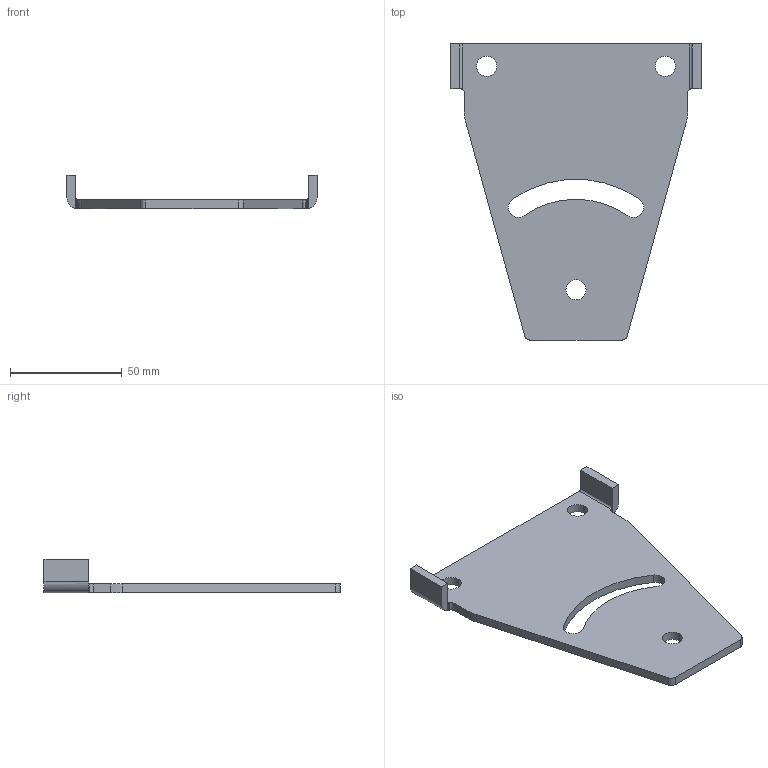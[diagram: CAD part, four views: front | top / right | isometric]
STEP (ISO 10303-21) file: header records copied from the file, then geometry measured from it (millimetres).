
FILE_DESCRIPTION (( 'STEP AP214' ), '1' );
FILE_NAME ('1.8004 Kallistuslevy.STEP', '2025-09-18T07:23:48', ( '' ), ( '' ), 'SwSTEP 2.0', 'SolidWorks 2025', '' );
FILE_SCHEMA (( 'AUTOMOTIVE_DESIGN' ));
Length unit declared in the file: millimetre
Products named in the file (1): 1.8004 Kallistuslevy
Bounding box: 112 x 132.5 x 15 mm (x, y, z)
Volume: 41515.6 mm3; surface area: 23559.6 mm2
Topology: 1 solids, 1 shells, 107 faces, 309 edges, 204 vertices
Faces by surface type: plane 86, cylinder 21
Entity records: 3522 total; most frequent: CARTESIAN_POINT 1017, ORIENTED_EDGE 618, DIRECTION 441, EDGE_CURVE 309, VERTEX_POINT 204, AXIS2_PLACEMENT_3D 156, LINE 129, VECTOR 129
